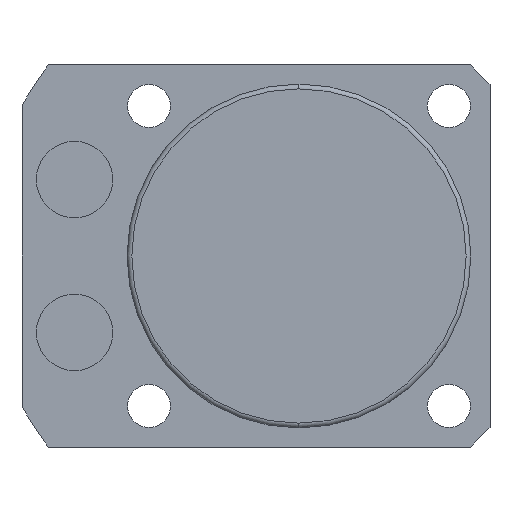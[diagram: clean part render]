
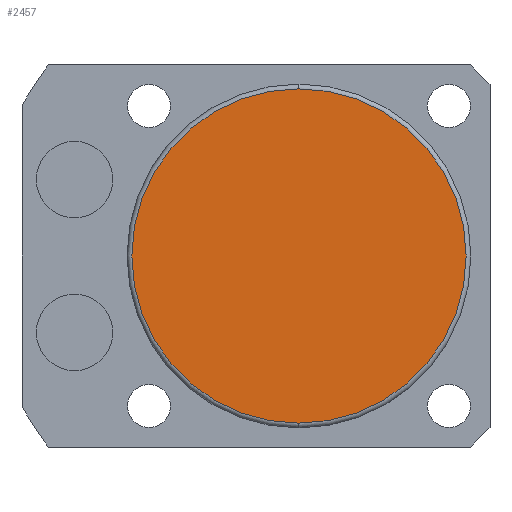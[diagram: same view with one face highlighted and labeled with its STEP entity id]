
A CAD part, front view. The second image highlights one B-rep face of the part: STEP entity #2457.
In plain terms, the highlighted planar face has unit normal (0, -1, 0).
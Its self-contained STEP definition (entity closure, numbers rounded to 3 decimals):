
#45 = CIRCLE ( 'NONE', #293, 17.5 ) ;
#66 = ORIENTED_EDGE ( 'NONE', *, *, #1679, .T. ) ;
#123 = AXIS2_PLACEMENT_3D ( 'NONE', #1714, #759, #583 ) ;
#128 = CARTESIAN_POINT ( 'NONE',  ( 0., -60.5, -17.5 ) ) ;
#293 = AXIS2_PLACEMENT_3D ( 'NONE', #491, #1300, #1633 ) ;
#484 = CARTESIAN_POINT ( 'NONE',  ( 0., -60.5, 17.5 ) ) ;
#491 = CARTESIAN_POINT ( 'NONE',  ( 0., -60.5, 0. ) ) ;
#575 = DIRECTION ( 'NONE',  ( 0., -1., 0. ) ) ;
#583 = DIRECTION ( 'NONE',  ( 0., 0., -1. ) ) ;
#738 = FACE_OUTER_BOUND ( 'NONE', #776, .T. ) ;
#759 = DIRECTION ( 'NONE',  ( 0., -1., 0. ) ) ;
#776 = EDGE_LOOP ( 'NONE', ( #1302, #66 ) ) ;
#886 = CIRCLE ( 'NONE', #123, 17.5 ) ;
#1153 = DIRECTION ( 'NONE',  ( 0., 0., -1. ) ) ;
#1289 = VERTEX_POINT ( 'NONE', #128 ) ;
#1300 = DIRECTION ( 'NONE',  ( 0., -1., 0. ) ) ;
#1302 = ORIENTED_EDGE ( 'NONE', *, *, #2451, .T. ) ;
#1633 = DIRECTION ( 'NONE',  ( 0., 0., -1. ) ) ;
#1679 = EDGE_CURVE ( 'NONE', #2369, #1289, #45, .T. ) ;
#1714 = CARTESIAN_POINT ( 'NONE',  ( 0., -60.5, 0. ) ) ;
#1737 = PLANE ( 'NONE',  #1995 ) ;
#1995 = AXIS2_PLACEMENT_3D ( 'NONE', #2271, #575, #1153 ) ;
#2271 = CARTESIAN_POINT ( 'NONE',  ( 0., -60.5, 0. ) ) ;
#2369 = VERTEX_POINT ( 'NONE', #484 ) ;
#2451 = EDGE_CURVE ( 'NONE', #1289, #2369, #886, .T. ) ;
#2457 = ADVANCED_FACE ( 'NONE', ( #738 ), #1737, .T. ) ;
